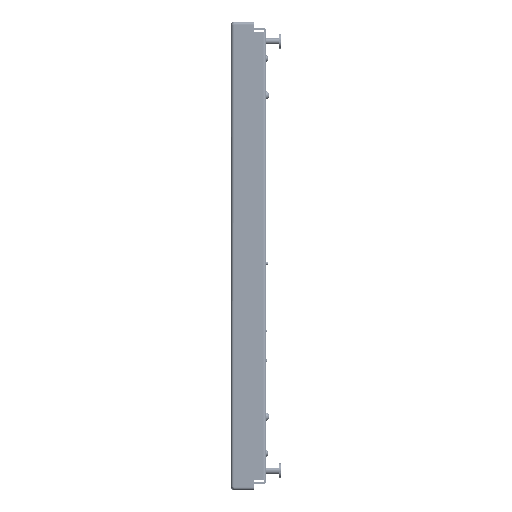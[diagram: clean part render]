
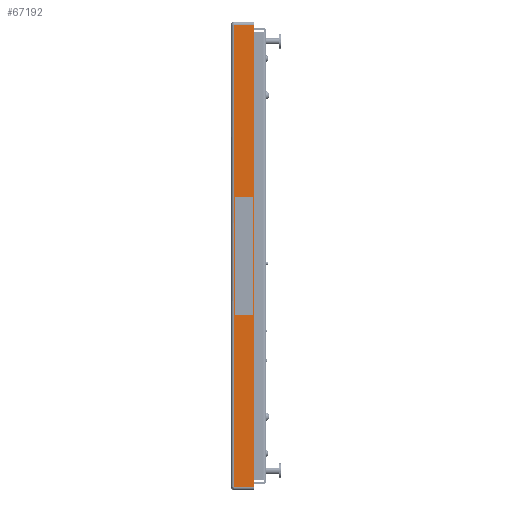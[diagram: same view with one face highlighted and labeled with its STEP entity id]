
A CAD part, left-side view. The second image highlights one B-rep face of the part: STEP entity #67192.
In plain terms, the highlighted planar face has unit normal (-1, 0, 0).
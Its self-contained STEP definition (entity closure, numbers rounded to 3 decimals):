
#3470 = DIRECTION ( 'NONE',  ( 0., 0., -1. ) ) ;
#8292 = VECTOR ( 'NONE', #118875, 1000. ) ;
#14559 = LINE ( 'NONE', #264867, #108214 ) ;
#22613 = VERTEX_POINT ( 'NONE', #111489 ) ;
#25255 = ORIENTED_EDGE ( 'NONE', *, *, #200256, .T. ) ;
#26593 = FACE_OUTER_BOUND ( 'NONE', #138479, .T. ) ;
#28714 = DIRECTION ( 'NONE',  ( 1., 0., 0. ) ) ;
#46139 = ORIENTED_EDGE ( 'NONE', *, *, #78034, .F. ) ;
#61223 = VERTEX_POINT ( 'NONE', #151309 ) ;
#64790 = CARTESIAN_POINT ( 'NONE',  ( -300., 26.437, 0. ) ) ;
#67192 = ADVANCED_FACE ( 'NONE', ( #26593 ), #115927, .F. ) ;
#70026 = VECTOR ( 'NONE', #3470, 1000. ) ;
#78034 = EDGE_CURVE ( 'NONE', #22613, #195957, #14559, .T. ) ;
#79453 = VECTOR ( 'NONE', #155902, 1000. ) ;
#79563 = VERTEX_POINT ( 'NONE', #152991 ) ;
#108214 = VECTOR ( 'NONE', #241530, 1000. ) ;
#109778 = EDGE_CURVE ( 'NONE', #79563, #22613, #191159, .T. ) ;
#111489 = CARTESIAN_POINT ( 'NONE',  ( -300., 0.813, -296.27 ) ) ;
#115927 = PLANE ( 'NONE',  #182107 ) ;
#117652 = CARTESIAN_POINT ( 'NONE',  ( -300., 0.813, -300. ) ) ;
#118875 = DIRECTION ( 'NONE',  ( 0., 1., 0. ) ) ;
#138479 = EDGE_LOOP ( 'NONE', ( #237712, #145569, #25255, #46139 ) ) ;
#145569 = ORIENTED_EDGE ( 'NONE', *, *, #257300, .T. ) ;
#151309 = CARTESIAN_POINT ( 'NONE',  ( -300., 26.437, 296.27 ) ) ;
#152991 = CARTESIAN_POINT ( 'NONE',  ( -300., 0.813, 296.27 ) ) ;
#155902 = DIRECTION ( 'NONE',  ( 0., 0., -1. ) ) ;
#160483 = CARTESIAN_POINT ( 'NONE',  ( -300., 0., 0. ) ) ;
#182107 = AXIS2_PLACEMENT_3D ( 'NONE', #160483, #28714, #229298 ) ;
#191159 = LINE ( 'NONE', #117652, #70026 ) ;
#195957 = VERTEX_POINT ( 'NONE', #248870 ) ;
#200256 = EDGE_CURVE ( 'NONE', #61223, #195957, #235577, .T. ) ;
#229298 = DIRECTION ( 'NONE',  ( 0., 1., 0. ) ) ;
#235577 = LINE ( 'NONE', #64790, #79453 ) ;
#237712 = ORIENTED_EDGE ( 'NONE', *, *, #109778, .F. ) ;
#241530 = DIRECTION ( 'NONE',  ( 0., 1., 0. ) ) ;
#248870 = CARTESIAN_POINT ( 'NONE',  ( -300., 26.437, -296.27 ) ) ;
#249831 = CARTESIAN_POINT ( 'NONE',  ( -300., 0., 296.27 ) ) ;
#257300 = EDGE_CURVE ( 'NONE', #79563, #61223, #268372, .T. ) ;
#264867 = CARTESIAN_POINT ( 'NONE',  ( -300., 0., -296.27 ) ) ;
#268372 = LINE ( 'NONE', #249831, #8292 ) ;
